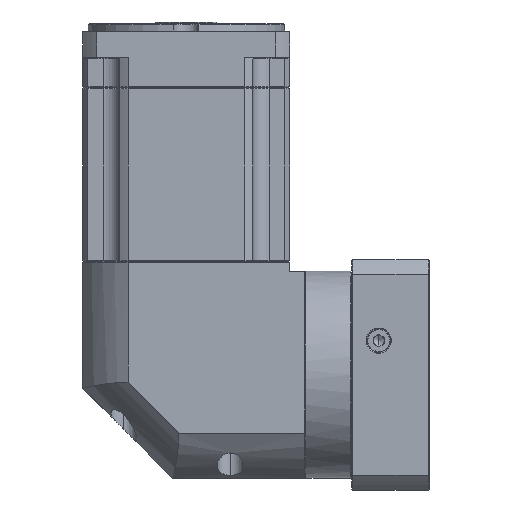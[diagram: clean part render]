
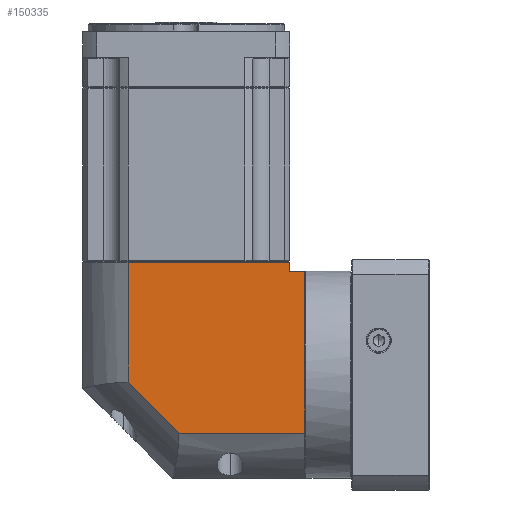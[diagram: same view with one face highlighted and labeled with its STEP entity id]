
A CAD part, left-side view. The second image highlights one B-rep face of the part: STEP entity #150335.
In plain terms, the highlighted planar face has unit normal (-1, 0, 0).
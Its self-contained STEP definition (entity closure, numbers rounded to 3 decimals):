
#8530 = EDGE_CURVE ( 'NONE', #136566, #94721, #158979, .T. ) ;
#9735 = ORIENTED_EDGE ( 'NONE', *, *, #161106, .T. ) ;
#11012 = CARTESIAN_POINT ( 'NONE',  ( -270.575, 3.629, -64.986 ) ) ;
#14520 = DIRECTION ( 'NONE',  ( 0., 0., 1. ) ) ;
#14701 = EDGE_CURVE ( 'NONE', #146292, #132254, #93424, .T. ) ;
#16484 = EDGE_CURVE ( 'NONE', #146292, #136566, #90558, .T. ) ;
#16670 = CARTESIAN_POINT ( 'NONE',  ( -270.575, -49.81, -64.986 ) ) ;
#18352 = DIRECTION ( 'NONE',  ( 0., 1., 0. ) ) ;
#22453 = DIRECTION ( 'NONE',  ( 0., -1., 0. ) ) ;
#22634 = VERTEX_POINT ( 'NONE', #106663 ) ;
#23736 = LINE ( 'NONE', #75172, #92641 ) ;
#31975 = VERTEX_POINT ( 'NONE', #36102 ) ;
#36102 = CARTESIAN_POINT ( 'NONE',  ( -270.575, -21.471, 29.913 ) ) ;
#39693 = LINE ( 'NONE', #143895, #139094 ) ;
#54478 = CARTESIAN_POINT ( 'NONE',  ( -270.575, -49.81, -64.986 ) ) ;
#55435 = VERTEX_POINT ( 'NONE', #89693 ) ;
#58665 = PLANE ( 'NONE',  #94922 ) ;
#59046 = VECTOR ( 'NONE', #18352, 1000. ) ;
#64790 = ORIENTED_EDGE ( 'NONE', *, *, #120468, .F. ) ;
#66363 = ORIENTED_EDGE ( 'NONE', *, *, #16484, .F. ) ;
#68644 = VECTOR ( 'NONE', #142524, 1000. ) ;
#71107 = DIRECTION ( 'NONE',  ( 0., 0., -1. ) ) ;
#72227 = DIRECTION ( 'NONE',  ( 1., 0., 0. ) ) ;
#75172 = CARTESIAN_POINT ( 'NONE',  ( -270.575, 3.629, 29.913 ) ) ;
#75682 = DIRECTION ( 'NONE',  ( 0., 1., 0. ) ) ;
#75689 = ORIENTED_EDGE ( 'NONE', *, *, #14701, .T. ) ;
#81045 = ORIENTED_EDGE ( 'NONE', *, *, #164761, .F. ) ;
#81801 = VECTOR ( 'NONE', #120910, 1000. ) ;
#86871 = EDGE_LOOP ( 'NONE', ( #64790, #81045, #114884, #66363, #75689, #9735, #160721 ) ) ;
#89688 = CARTESIAN_POINT ( 'NONE',  ( -270.575, -111.371, -90.087 ) ) ;
#89693 = CARTESIAN_POINT ( 'NONE',  ( -270.575, -111.371, 29.913 ) ) ;
#90558 = LINE ( 'NONE', #96004, #120969 ) ;
#92641 = VECTOR ( 'NONE', #22453, 1000. ) ;
#93424 = LINE ( 'NONE', #109066, #59046 ) ;
#94721 = VERTEX_POINT ( 'NONE', #54478 ) ;
#94922 = AXIS2_PLACEMENT_3D ( 'NONE', #149928, #72227, #162946 ) ;
#96004 = CARTESIAN_POINT ( 'NONE',  ( -270.575, -119.771, 36.413 ) ) ;
#100158 = CARTESIAN_POINT ( 'NONE',  ( -270.575, -111.371, 24.913 ) ) ;
#106663 = CARTESIAN_POINT ( 'NONE',  ( -270.575, -21.471, -36.648 ) ) ;
#107200 = LINE ( 'NONE', #89688, #68644 ) ;
#109066 = CARTESIAN_POINT ( 'NONE',  ( -270.575, -111.371, 24.913 ) ) ;
#114884 = ORIENTED_EDGE ( 'NONE', *, *, #8530, .F. ) ;
#120280 = VECTOR ( 'NONE', #75682, 1000. ) ;
#120468 = EDGE_CURVE ( 'NONE', #22634, #31975, #39693, .T. ) ;
#120542 = CARTESIAN_POINT ( 'NONE',  ( -270.575, -119.771, 24.913 ) ) ;
#120910 = DIRECTION ( 'NONE',  ( 0., 0.707, 0.707 ) ) ;
#120969 = VECTOR ( 'NONE', #71107, 1000. ) ;
#132254 = VERTEX_POINT ( 'NONE', #100158 ) ;
#134182 = EDGE_CURVE ( 'NONE', #31975, #55435, #23736, .T. ) ;
#136566 = VERTEX_POINT ( 'NONE', #159593 ) ;
#139094 = VECTOR ( 'NONE', #14520, 1000. ) ;
#142524 = DIRECTION ( 'NONE',  ( 0., 0., 1. ) ) ;
#143895 = CARTESIAN_POINT ( 'NONE',  ( -270.575, -21.471, 36.413 ) ) ;
#146292 = VERTEX_POINT ( 'NONE', #120542 ) ;
#149928 = CARTESIAN_POINT ( 'NONE',  ( -270.575, 3.629, 36.413 ) ) ;
#150335 = ADVANCED_FACE ( 'NONE', ( #150545 ), #58665, .F. ) ;
#150545 = FACE_OUTER_BOUND ( 'NONE', #86871, .T. ) ;
#150833 = LINE ( 'NONE', #16670, #81801 ) ;
#158979 = LINE ( 'NONE', #11012, #120280 ) ;
#159593 = CARTESIAN_POINT ( 'NONE',  ( -270.575, -119.771, -64.986 ) ) ;
#160721 = ORIENTED_EDGE ( 'NONE', *, *, #134182, .F. ) ;
#161106 = EDGE_CURVE ( 'NONE', #132254, #55435, #107200, .T. ) ;
#162946 = DIRECTION ( 'NONE',  ( 0., 1., 0. ) ) ;
#164761 = EDGE_CURVE ( 'NONE', #94721, #22634, #150833, .T. ) ;
